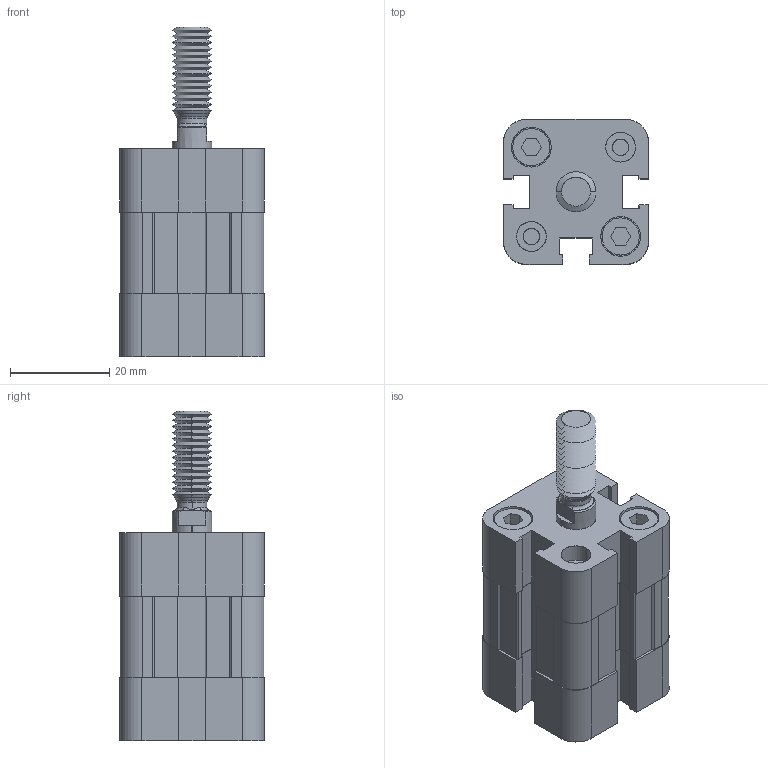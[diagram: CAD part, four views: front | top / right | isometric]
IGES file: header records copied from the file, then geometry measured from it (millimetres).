
Start section: SolidWorks IGES file using analytic representation for surfaces
Global section: file name: W:\_ALTRO\CATALOGO 3D\CYLINDERS\NSK\016\IGES\NSKI 016\NSKI 016M\NSKI016.0005 M.IGS; native system: SolidWorks 2009; preprocessor: SolidWorks 2009; author: utente03; date: 110531.145329; units: millimetre
Bounding box: 29.2 x 29.2 x 66.5 mm (x, y, z)
Surface area: 15974.3 mm2 (no closed solid volume)
Topology: 0 solids, 0 shells, 570 faces, 4914 edges, 4912 vertices
Faces by surface type: bspline 293, revolution 277
